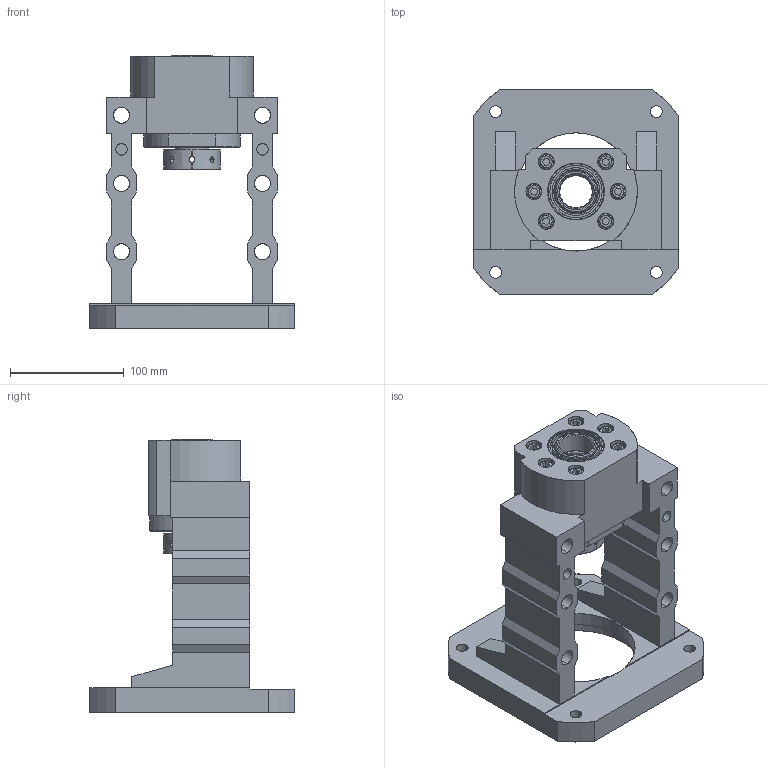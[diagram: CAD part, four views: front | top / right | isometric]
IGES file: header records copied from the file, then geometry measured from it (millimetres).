
Start section: SolidWorks IGES file using analytic representation for surfaces
Bounding box: 180 x 180 x 241 mm (x, y, z)
Surface area: 225083 mm2 (no closed solid volume)
Topology: 0 solids, 0 shells, 339 faces, 6040 edges, 6032 vertices
Faces by surface type: revolution 181, bspline 158
